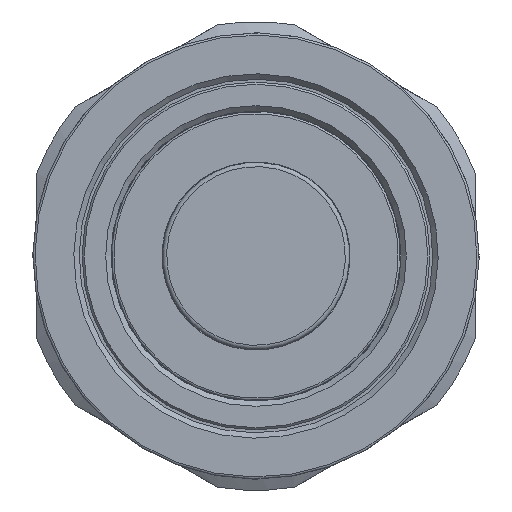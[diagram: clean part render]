
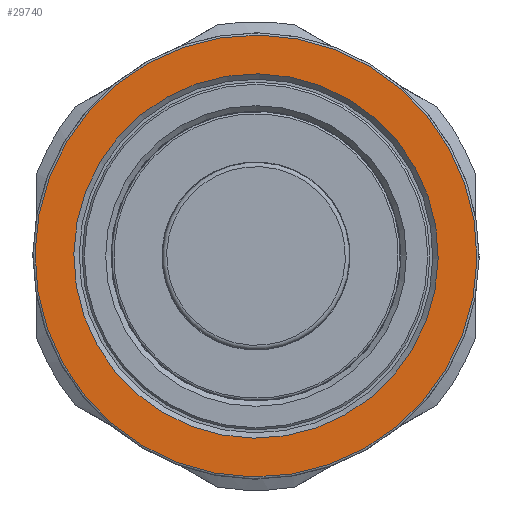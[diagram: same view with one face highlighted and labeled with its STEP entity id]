
A CAD part, front view. The second image highlights one B-rep face of the part: STEP entity #29740.
In plain terms, the highlighted planar face has unit normal (0, -1, 0).
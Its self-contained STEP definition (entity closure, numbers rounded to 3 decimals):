
#8649=FACE_BOUND('',#10357,.T.);
#8743=FACE_OUTER_BOUND('',#10356,.T.);
#10356=EDGE_LOOP('',(#20217));
#10357=EDGE_LOOP('',(#20218));
#12051=CIRCLE('',#31399,20.65);
#12052=CIRCLE('',#31401,17.025);
#12584=VERTEX_POINT('',#36695);
#12585=VERTEX_POINT('',#36699);
#15629=EDGE_CURVE('',#12584,#12584,#12051,.T.);
#15630=EDGE_CURVE('',#12585,#12585,#12052,.T.);
#20217=ORIENTED_EDGE('',*,*,#15629,.F.);
#20218=ORIENTED_EDGE('',*,*,#15630,.F.);
#29308=PLANE('',#31400);
#29740=ADVANCED_FACE('',(#8743,#8649),#29308,.T.);
#31399=AXIS2_PLACEMENT_3D('',#36697,#32587,#32588);
#31400=AXIS2_PLACEMENT_3D('',#36698,#32589,#32590);
#31401=AXIS2_PLACEMENT_3D('',#36700,#32591,#32592);
#32587=DIRECTION('center_axis',(0.,1.,0.));
#32588=DIRECTION('ref_axis',(1.,0.,-0.014));
#32589=DIRECTION('center_axis',(0.,-1.,0.));
#32590=DIRECTION('ref_axis',(0.014,0.,1.));
#32591=DIRECTION('center_axis',(0.,-1.,0.));
#32592=DIRECTION('ref_axis',(1.,0.,-0.014));
#36695=CARTESIAN_POINT('',(0.291,-25.185,20.648));
#36697=CARTESIAN_POINT('Origin',(0.,-25.185,
0.));
#36698=CARTESIAN_POINT('Origin',(-20.848,-25.185,0.294));
#36699=CARTESIAN_POINT('',(-17.023,-25.185,0.24));
#36700=CARTESIAN_POINT('Origin',(0.,-25.185,
0.));
